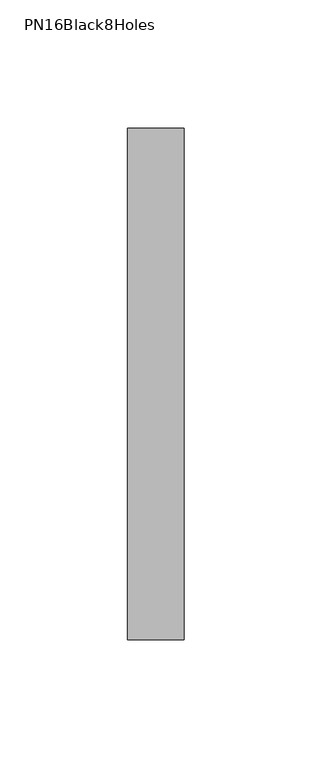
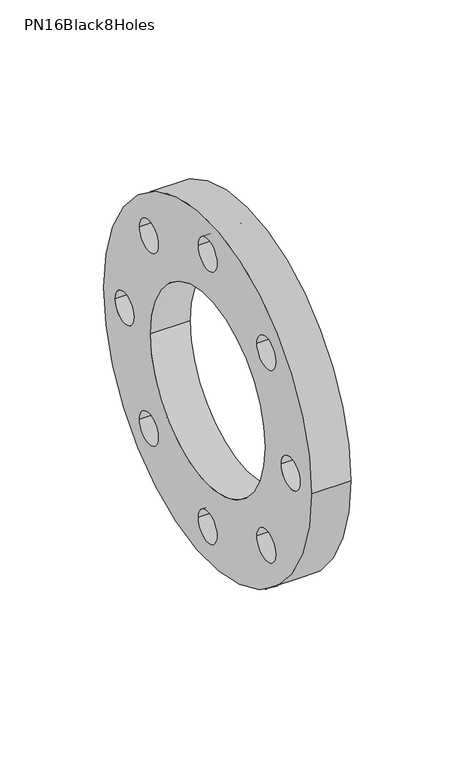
"""IFC4 building model written with IfcOpenShell, lengths in millimetres: pipe fitting geometry, PipeAccessory_GirpiHTA_CPVC_BackingRingsPN16Black8HolesFlangeAndGasket : PN16Black8Holes."""

from ifc_helpers import new_model, si_unit, point, frame, frame_2d, origin, origin_2d, place, context, project, spatial, circle_curve, trimmed, segment, composite_curve, outline, extrude, source, transform, mapped, element, save


def pn16black8holes_1ed16b56(model_context):
    return source(origin(), model_context, "Body", "SweptSolid", [
        extrude(outline(composite_curve([segment(trimmed(circle_curve(origin_2d(), 100.0), [point((-100.0, 0.0))], [point((100.0, 0.0))], False, "CARTESIAN"), True, "CONTINUOUS"), segment(trimmed(circle_curve(origin_2d(), 100.0), [point((100.0, 0.0))], [point((-100.0, 0.0))], False, "CARTESIAN"), True, "CONTINUOUS")], self_intersect=False), holes=[composite_curve([segment(trimmed(circle_curve(origin_2d(), 55.0), [point((-55.0, 0.0))], [point((55.0, 0.0))], True, "CARTESIAN"), True, "CONTINUOUS"), segment(trimmed(circle_curve(origin_2d(), 55.0), [point((55.0, 0.0))], [point((-55.0, 0.0))], True, "CARTESIAN"), True, "CONTINUOUS")], self_intersect=False), composite_curve([segment(trimmed(circle_curve(frame_2d((0.0, 80.0)), 9.0), [point((-9.0, 80.0))], [point((9.0, 80.0))], True, "CARTESIAN"), True, "CONTINUOUS"), segment(trimmed(circle_curve(frame_2d((0.0, 80.0)), 9.0), [point((9.0, 80.0))], [point((-9.0, 80.0))], True, "CARTESIAN"), True, "CONTINUOUS")], self_intersect=False), composite_curve([segment(trimmed(circle_curve(frame_2d((80.0, 0.0)), 9.0), [point((71.0, 0.0))], [point((89.0, 0.0))], True, "CARTESIAN"), True, "CONTINUOUS"), segment(trimmed(circle_curve(frame_2d((80.0, 0.0)), 9.0), [point((89.0, 0.0))], [point((71.0, 0.0))], True, "CARTESIAN"), True, "CONTINUOUS")], self_intersect=False), composite_curve([segment(trimmed(circle_curve(frame_2d((0.0, -80.0)), 9.0), [point((-9.0, -80.0))], [point((9.0, -80.0))], True, "CARTESIAN"), True, "CONTINUOUS"), segment(trimmed(circle_curve(frame_2d((0.0, -80.0)), 9.0), [point((9.0, -80.0))], [point((-9.0, -80.0))], True, "CARTESIAN"), True, "CONTINUOUS")], self_intersect=False), composite_curve([segment(trimmed(circle_curve(frame_2d((-80.0, 0.0)), 9.0), [point((-89.0, 0.0))], [point((-71.0, 0.0))], True, "CARTESIAN"), True, "CONTINUOUS"), segment(trimmed(circle_curve(frame_2d((-80.0, 0.0)), 9.0), [point((-71.0, 0.0))], [point((-89.0, 0.0))], True, "CARTESIAN"), True, "CONTINUOUS")], self_intersect=False), composite_curve([segment(trimmed(circle_curve(frame_2d((-56.5685425, 56.5685425)), 9.0), [point((-65.5685425, 56.5685425))], [point((-47.5685425, 56.5685425))], True, "CARTESIAN"), True, "CONTINUOUS"), segment(trimmed(circle_curve(frame_2d((-56.5685425, 56.5685425)), 9.0), [point((-47.5685425, 56.5685425))], [point((-65.5685425, 56.5685425))], True, "CARTESIAN"), True, "CONTINUOUS")], self_intersect=False), composite_curve([segment(trimmed(circle_curve(frame_2d((56.5685425, -56.5685425)), 9.0), [point((47.5685425, -56.5685425))], [point((65.5685425, -56.5685425))], True, "CARTESIAN"), True, "CONTINUOUS"), segment(trimmed(circle_curve(frame_2d((56.5685425, -56.5685425)), 9.0), [point((65.5685425, -56.5685425))], [point((47.5685425, -56.5685425))], True, "CARTESIAN"), True, "CONTINUOUS")], self_intersect=False), composite_curve([segment(trimmed(circle_curve(frame_2d((-56.5685425, -56.5685425)), 9.0), [point((-65.5685425, -56.5685425))], [point((-47.5685425, -56.5685425))], True, "CARTESIAN"), True, "CONTINUOUS"), segment(trimmed(circle_curve(frame_2d((-56.5685425, -56.5685425)), 9.0), [point((-47.5685425, -56.5685425))], [point((-65.5685425, -56.5685425))], True, "CARTESIAN"), True, "CONTINUOUS")], self_intersect=False), composite_curve([segment(trimmed(circle_curve(frame_2d((56.5685425, 56.5685425)), 9.0), [point((47.5685425, 56.5685425))], [point((65.5685425, 56.5685425))], True, "CARTESIAN"), True, "CONTINUOUS"), segment(trimmed(circle_curve(frame_2d((56.5685425, 56.5685425)), 9.0), [point((65.5685425, 56.5685425))], [point((47.5685425, 56.5685425))], True, "CARTESIAN"), True, "CONTINUOUS")], self_intersect=False)]), frame((-11.0, 0.0, 0.0), z_axis=(1.0, 0.0, 0.0), x_axis=(0.0, 1.0, 0.0)), (0.0, 0.0, 1.0), 22.0),
    ])


if __name__ == "__main__":
    model = new_model("IFC4")
    model_context = context("Model", 3, world=origin())
    ifc_project = project(units=[si_unit("LENGTHUNIT", "METRE", prefix="MILLI")], contexts=[model_context])
    site = spatial("IfcSite", under=ifc_project)
    building = spatial("IfcBuilding", under=site)
    placement = place(None, origin())
    pn16black8holes_shape = pn16black8holes_1ed16b56(model_context)
    element("IfcPipeFitting", 1, ObjectType="PipeAccessory_GirpiHTA_CPVC_BackingRingsPN16Black8HolesFlangeAndGasket : PN16Black8Holes", at=placement, inside=building, context=model_context, shape_type="MappedRepresentation", body=[
        mapped(pn16black8holes_shape, transform((0.0, 0.0, 0.0), x_axis=(1.0, 0.0, 0.0), y_axis=(0.0, 1.0, 0.0), z_axis=(0.0, 0.0, 1.0))),
    ])
    save(model, "model.ifc")
